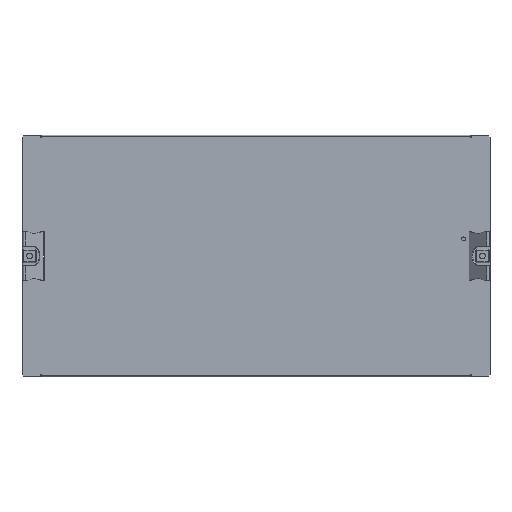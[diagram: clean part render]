
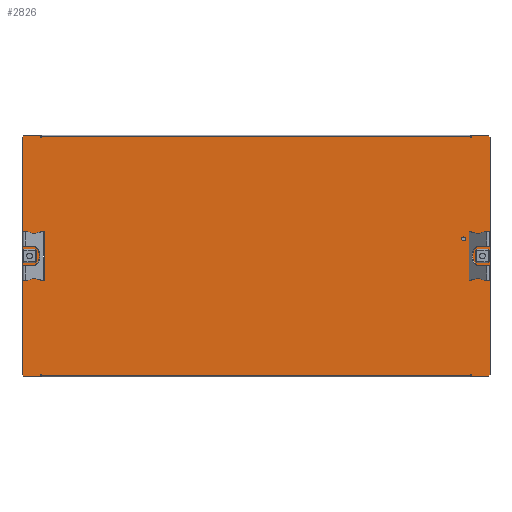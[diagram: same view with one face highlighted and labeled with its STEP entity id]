
A CAD part, top view. The second image highlights one B-rep face of the part: STEP entity #2826.
In plain terms, the highlighted planar face has unit normal (0, 0, 1).
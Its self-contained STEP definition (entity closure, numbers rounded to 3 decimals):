
#481=CARTESIAN_POINT(' ',(-217.75,-25.25,0.));
#482=VERTEX_POINT(' ',#481);
#496=CARTESIAN_POINT(' ',(-217.75,-25.25,0.));
#501=DIRECTION(' ',(0.,1.,0.));
#506=VECTOR(' ',#501,1.);
#511=LINE('',#496,#506);
#516=CARTESIAN_POINT(' ',(-217.75,25.25,0.));
#517=VERTEX_POINT(' ',#516);
#521=EDGE_CURVE(' ',#482,#517,#511,.T.);
#1711=CARTESIAN_POINT(' ',(-220.75,-25.25,0.));
#1712=VERTEX_POINT(' ',#1711);
#1726=CARTESIAN_POINT(' ',(-220.75,-25.25,0.));
#1731=DIRECTION(' ',(1.,0.,0.));
#1736=VECTOR(' ',#1731,1.);
#1741=LINE('',#1726,#1736);
#1746=EDGE_CURVE(' ',#1712,#482,#1741,.T.);
#1776=DIRECTION(' ',(-0.,-0.,1.));
#1781=CARTESIAN_POINT(' ',(240.5,-124.,0.));
#1786=DIRECTION(' ',(0.,1.,0.));
#1791=AXIS2_PLACEMENT_3D(' ',#1781,#1776,#1786);
#1796=PLANE('NONE',#1791);
#1801=CARTESIAN_POINT(' ',(221.,121.9,0.));
#1806=DIRECTION(' ',(0.,1.,0.));
#1811=VECTOR(' ',#1806,1.);
#1816=LINE('',#1801,#1811);
#1821=CARTESIAN_POINT(' ',(221.,121.9,0.));
#1822=VERTEX_POINT(' ',#1821);
#1826=CARTESIAN_POINT(' ',(221.,124.,0.));
#1827=VERTEX_POINT(' ',#1826);
#1831=EDGE_CURVE(' ',#1822,#1827,#1816,.T.);
#1836=ORIENTED_EDGE(' ',*,*,#1831,.F.);
#1841=CARTESIAN_POINT(' ',(220.5,121.9,0.));
#1846=DIRECTION(' ',(1.,0.,0.));
#1851=VECTOR(' ',#1846,1.);
#1856=LINE('',#1841,#1851);
#1861=CARTESIAN_POINT(' ',(220.5,121.9,0.));
#1862=VERTEX_POINT(' ',#1861);
#1866=EDGE_CURVE(' ',#1862,#1822,#1856,.T.);
#1871=ORIENTED_EDGE(' ',*,*,#1866,.F.);
#1876=CARTESIAN_POINT(' ',(220.5,122.4,0.));
#1881=DIRECTION(' ',(0.,-1.,0.));
#1886=VECTOR(' ',#1881,1.);
#1891=LINE('',#1876,#1886);
#1896=CARTESIAN_POINT(' ',(220.5,122.4,0.));
#1897=VERTEX_POINT(' ',#1896);
#1901=EDGE_CURVE(' ',#1897,#1862,#1891,.T.);
#1906=ORIENTED_EDGE(' ',*,*,#1901,.F.);
#1911=CARTESIAN_POINT(' ',(220.5,122.4,0.));
#1916=DIRECTION(' ',(-1.,0.,0.));
#1921=VECTOR(' ',#1916,1.);
#1926=LINE('',#1911,#1921);
#1931=CARTESIAN_POINT(' ',(-220.5,122.4,0.));
#1932=VERTEX_POINT(' ',#1931);
#1936=EDGE_CURVE(' ',#1897,#1932,#1926,.T.);
#1941=ORIENTED_EDGE(' ',*,*,#1936,.T.);
#1946=CARTESIAN_POINT(' ',(-220.5,121.9,0.));
#1951=DIRECTION(' ',(0.,1.,0.));
#1956=VECTOR(' ',#1951,1.);
#1961=LINE('',#1946,#1956);
#1966=CARTESIAN_POINT(' ',(-220.5,121.9,0.));
#1967=VERTEX_POINT(' ',#1966);
#1971=EDGE_CURVE(' ',#1967,#1932,#1961,.T.);
#1976=ORIENTED_EDGE(' ',*,*,#1971,.F.);
#1981=CARTESIAN_POINT(' ',(-221.,121.9,0.));
#1986=DIRECTION(' ',(1.,0.,0.));
#1991=VECTOR(' ',#1986,1.);
#1996=LINE('',#1981,#1991);
#2001=CARTESIAN_POINT(' ',(-221.,121.9,0.));
#2002=VERTEX_POINT(' ',#2001);
#2006=EDGE_CURVE(' ',#2002,#1967,#1996,.T.);
#2011=ORIENTED_EDGE(' ',*,*,#2006,.F.);
#2016=CARTESIAN_POINT(' ',(-221.,124.,0.));
#2021=DIRECTION(' ',(0.,-1.,0.));
#2026=VECTOR(' ',#2021,1.);
#2031=LINE('',#2016,#2026);
#2036=CARTESIAN_POINT(' ',(-221.,124.,0.));
#2037=VERTEX_POINT(' ',#2036);
#2041=EDGE_CURVE(' ',#2037,#2002,#2031,.T.);
#2046=ORIENTED_EDGE(' ',*,*,#2041,.F.);
#2051=CARTESIAN_POINT(' ',(-221.,124.,0.));
#2056=DIRECTION(' ',(-1.,0.,0.));
#2061=VECTOR(' ',#2056,1.);
#2066=LINE('',#2051,#2061);
#2071=CARTESIAN_POINT(' ',(-238.5,124.,0.));
#2072=VERTEX_POINT(' ',#2071);
#2076=EDGE_CURVE(' ',#2037,#2072,#2066,.T.);
#2081=ORIENTED_EDGE(' ',*,*,#2076,.T.);
#2086=CARTESIAN_POINT(' ',(-238.5,124.,0.));
#2091=DIRECTION(' ',(-0.707,-0.707,0.));
#2096=VECTOR(' ',#2091,1.);
#2101=LINE('',#2086,#2096);
#2106=CARTESIAN_POINT(' ',(-240.5,122.,0.));
#2107=VERTEX_POINT(' ',#2106);
#2111=EDGE_CURVE(' ',#2072,#2107,#2101,.T.);
#2116=ORIENTED_EDGE(' ',*,*,#2111,.T.);
#2121=CARTESIAN_POINT(' ',(-240.5,122.,0.));
#2126=DIRECTION(' ',(0.,-1.,0.));
#2131=VECTOR(' ',#2126,1.);
#2136=LINE('',#2121,#2131);
#2141=CARTESIAN_POINT(' ',(-240.5,-122.,0.));
#2142=VERTEX_POINT(' ',#2141);
#2146=EDGE_CURVE(' ',#2107,#2142,#2136,.T.);
#2151=ORIENTED_EDGE(' ',*,*,#2146,.T.);
#2156=CARTESIAN_POINT(' ',(-240.5,-122.,0.));
#2161=DIRECTION(' ',(0.707,-0.707,0.));
#2166=VECTOR(' ',#2161,1.);
#2171=LINE('',#2156,#2166);
#2176=CARTESIAN_POINT(' ',(-238.5,-124.,0.));
#2177=VERTEX_POINT(' ',#2176);
#2181=EDGE_CURVE(' ',#2142,#2177,#2171,.T.);
#2186=ORIENTED_EDGE(' ',*,*,#2181,.T.);
#2191=CARTESIAN_POINT(' ',(-238.5,-124.,0.));
#2196=DIRECTION(' ',(1.,0.,0.));
#2201=VECTOR(' ',#2196,1.);
#2206=LINE('',#2191,#2201);
#2211=CARTESIAN_POINT(' ',(-221.,-124.,0.));
#2212=VERTEX_POINT(' ',#2211);
#2216=EDGE_CURVE(' ',#2177,#2212,#2206,.T.);
#2221=ORIENTED_EDGE(' ',*,*,#2216,.T.);
#2226=CARTESIAN_POINT(' ',(-221.,-121.9,0.));
#2231=DIRECTION(' ',(0.,-1.,0.));
#2236=VECTOR(' ',#2231,1.);
#2241=LINE('',#2226,#2236);
#2246=CARTESIAN_POINT(' ',(-221.,-121.9,0.));
#2247=VERTEX_POINT(' ',#2246);
#2251=EDGE_CURVE(' ',#2247,#2212,#2241,.T.);
#2256=ORIENTED_EDGE(' ',*,*,#2251,.F.);
#2261=CARTESIAN_POINT(' ',(-220.5,-121.9,0.));
#2266=DIRECTION(' ',(-1.,0.,0.));
#2271=VECTOR(' ',#2266,1.);
#2276=LINE('',#2261,#2271);
#2281=CARTESIAN_POINT(' ',(-220.5,-121.9,0.));
#2282=VERTEX_POINT(' ',#2281);
#2286=EDGE_CURVE(' ',#2282,#2247,#2276,.T.);
#2291=ORIENTED_EDGE(' ',*,*,#2286,.F.);
#2296=CARTESIAN_POINT(' ',(-220.5,-122.4,0.));
#2301=DIRECTION(' ',(0.,1.,0.));
#2306=VECTOR(' ',#2301,1.);
#2311=LINE('',#2296,#2306);
#2316=CARTESIAN_POINT(' ',(-220.5,-122.4,0.));
#2317=VERTEX_POINT(' ',#2316);
#2321=EDGE_CURVE(' ',#2317,#2282,#2311,.T.);
#2326=ORIENTED_EDGE(' ',*,*,#2321,.F.);
#2331=CARTESIAN_POINT(' ',(-220.5,-122.4,0.));
#2336=DIRECTION(' ',(1.,0.,0.));
#2341=VECTOR(' ',#2336,1.);
#2346=LINE('',#2331,#2341);
#2351=CARTESIAN_POINT(' ',(220.5,-122.4,0.));
#2352=VERTEX_POINT(' ',#2351);
#2356=EDGE_CURVE(' ',#2317,#2352,#2346,.T.);
#2361=ORIENTED_EDGE(' ',*,*,#2356,.T.);
#2366=CARTESIAN_POINT(' ',(220.5,-121.9,0.));
#2371=DIRECTION(' ',(0.,-1.,0.));
#2376=VECTOR(' ',#2371,1.);
#2381=LINE('',#2366,#2376);
#2386=CARTESIAN_POINT(' ',(220.5,-121.9,0.));
#2387=VERTEX_POINT(' ',#2386);
#2391=EDGE_CURVE(' ',#2387,#2352,#2381,.T.);
#2396=ORIENTED_EDGE(' ',*,*,#2391,.F.);
#2401=CARTESIAN_POINT(' ',(221.,-121.9,0.));
#2406=DIRECTION(' ',(-1.,0.,0.));
#2411=VECTOR(' ',#2406,1.);
#2416=LINE('',#2401,#2411);
#2421=CARTESIAN_POINT(' ',(221.,-121.9,0.));
#2422=VERTEX_POINT(' ',#2421);
#2426=EDGE_CURVE(' ',#2422,#2387,#2416,.T.);
#2431=ORIENTED_EDGE(' ',*,*,#2426,.F.);
#2436=CARTESIAN_POINT(' ',(221.,-124.,0.));
#2441=DIRECTION(' ',(0.,1.,0.));
#2446=VECTOR(' ',#2441,1.);
#2451=LINE('',#2436,#2446);
#2456=CARTESIAN_POINT(' ',(221.,-124.,0.));
#2457=VERTEX_POINT(' ',#2456);
#2461=EDGE_CURVE(' ',#2457,#2422,#2451,.T.);
#2466=ORIENTED_EDGE(' ',*,*,#2461,.F.);
#2471=CARTESIAN_POINT(' ',(221.,-124.,0.));
#2476=DIRECTION(' ',(1.,0.,0.));
#2481=VECTOR(' ',#2476,1.);
#2486=LINE('',#2471,#2481);
#2491=CARTESIAN_POINT(' ',(238.5,-124.,0.));
#2492=VERTEX_POINT(' ',#2491);
#2496=EDGE_CURVE(' ',#2457,#2492,#2486,.T.);
#2501=ORIENTED_EDGE(' ',*,*,#2496,.T.);
#2506=CARTESIAN_POINT(' ',(238.5,-124.,0.));
#2511=DIRECTION(' ',(0.707,0.707,0.));
#2516=VECTOR(' ',#2511,1.);
#2521=LINE('',#2506,#2516);
#2526=CARTESIAN_POINT(' ',(240.5,-122.,0.));
#2527=VERTEX_POINT(' ',#2526);
#2531=EDGE_CURVE(' ',#2492,#2527,#2521,.T.);
#2536=ORIENTED_EDGE(' ',*,*,#2531,.T.);
#2541=CARTESIAN_POINT(' ',(240.5,-122.,0.));
#2546=DIRECTION(' ',(0.,1.,0.));
#2551=VECTOR(' ',#2546,1.);
#2556=LINE('',#2541,#2551);
#2561=CARTESIAN_POINT(' ',(240.5,122.,0.));
#2562=VERTEX_POINT(' ',#2561);
#2566=EDGE_CURVE(' ',#2527,#2562,#2556,.T.);
#2571=ORIENTED_EDGE(' ',*,*,#2566,.T.);
#2576=CARTESIAN_POINT(' ',(240.5,122.,0.));
#2581=DIRECTION(' ',(-0.707,0.707,0.));
#2586=VECTOR(' ',#2581,1.);
#2591=LINE('',#2576,#2586);
#2596=CARTESIAN_POINT(' ',(238.5,124.,0.));
#2597=VERTEX_POINT(' ',#2596);
#2601=EDGE_CURVE(' ',#2562,#2597,#2591,.T.);
#2606=ORIENTED_EDGE(' ',*,*,#2601,.T.);
#2611=CARTESIAN_POINT(' ',(238.5,124.,0.));
#2616=DIRECTION(' ',(-1.,0.,0.));
#2621=VECTOR(' ',#2616,1.);
#2626=LINE('',#2611,#2621);
#2631=EDGE_CURVE(' ',#2597,#1827,#2626,.T.);
#2636=ORIENTED_EDGE(' ',*,*,#2631,.T.);
#2641=EDGE_LOOP(' ',(#1836,#1871,#1906,#1941,#1976,#2011,#2046,#2081,#2116,#2151,#2186,#2221,#2256,#2291,#2326,#2361,#2396,#2431,#2466,#2501,#2536,#2571,#2606,#2636));
#2646=FACE_OUTER_BOUND(' ',#2641,.T.);
#2651=ORIENTED_EDGE(' ',*,*,#1746,.F.);
#2656=CARTESIAN_POINT(' ',(-220.75,25.25,0.));
#2661=DIRECTION(' ',(0.,-1.,0.));
#2666=VECTOR(' ',#2661,1.);
#2671=LINE('',#2656,#2666);
#2676=CARTESIAN_POINT(' ',(-220.75,25.25,0.));
#2677=VERTEX_POINT(' ',#2676);
#2681=EDGE_CURVE(' ',#2677,#1712,#2671,.T.);
#2686=ORIENTED_EDGE(' ',*,*,#2681,.F.);
#2691=CARTESIAN_POINT(' ',(-217.75,25.25,0.));
#2696=DIRECTION(' ',(-1.,0.,0.));
#2701=VECTOR(' ',#2696,1.);
#2706=LINE('',#2691,#2701);
#2711=EDGE_CURVE(' ',#517,#2677,#2706,.T.);
#2716=ORIENTED_EDGE(' ',*,*,#2711,.F.);
#2721=ORIENTED_EDGE(' ',*,*,#521,.F.);
#2726=EDGE_LOOP(' ',(#2651,#2686,#2716,#2721));
#2731=FACE_BOUND(' ',#2726,.T.);
#2736=CARTESIAN_POINT(' ',(213.336,17.5,0.));
#2741=DIRECTION(' ',(0.,-0.,-1.));
#2746=DIRECTION(' ',(-1.,0.,0.));
#2751=AXIS2_PLACEMENT_3D(' ',#2736,#2741,#2746);
#2756=CIRCLE('',#2751,2.05);
#2761=CARTESIAN_POINT(' ',(211.286,17.5,0.));
#2762=VERTEX_POINT(' ',#2761);
#2766=CARTESIAN_POINT(' ',(215.386,17.5,0.));
#2767=VERTEX_POINT(' ',#2766);
#2771=EDGE_CURVE(' ',#2762,#2767,#2756,.T.);
#2776=ORIENTED_EDGE(' ',*,*,#2771,.T.);
#2781=CARTESIAN_POINT(' ',(213.336,17.5,0.));
#2786=DIRECTION(' ',(0.,0.,-1.));
#2791=DIRECTION(' ',(1.,0.,0.));
#2796=AXIS2_PLACEMENT_3D(' ',#2781,#2786,#2791);
#2801=CIRCLE('',#2796,2.05);
#2806=EDGE_CURVE(' ',#2767,#2762,#2801,.T.);
#2811=ORIENTED_EDGE(' ',*,*,#2806,.T.);
#2816=EDGE_LOOP(' ',(#2776,#2811));
#2821=FACE_BOUND(' ',#2816,.T.);
#2826=ADVANCED_FACE('NONE',(#2646,#2731,#2821),#1796,.T.);
